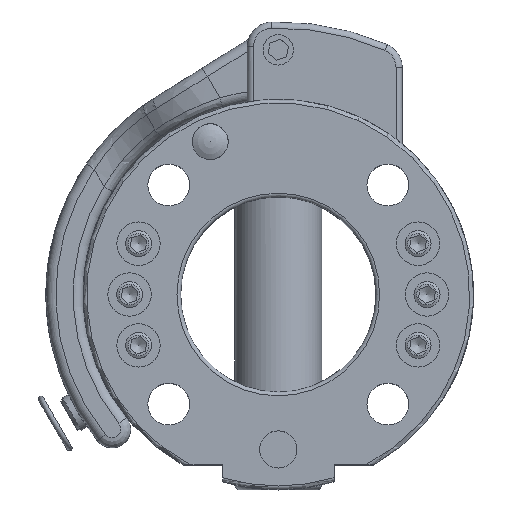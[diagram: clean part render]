
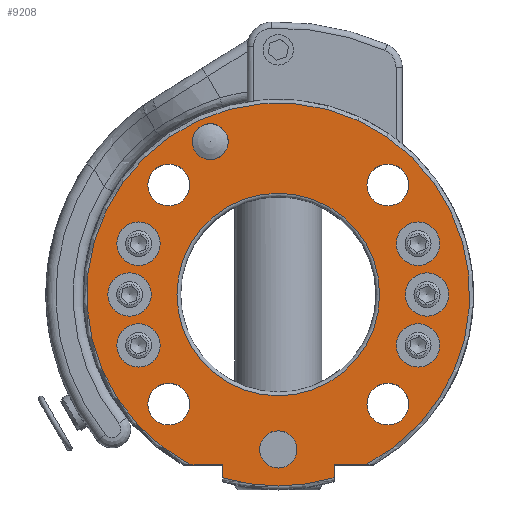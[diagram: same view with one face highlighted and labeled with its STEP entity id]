
A CAD part, top view. The second image highlights one B-rep face of the part: STEP entity #9208.
In plain terms, the highlighted planar face has unit normal (0, 0, 1).
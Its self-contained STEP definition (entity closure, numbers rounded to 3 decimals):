
#352=FACE_BOUND('',#1497,.T.);
#353=FACE_BOUND('',#1498,.T.);
#354=FACE_BOUND('',#1499,.T.);
#355=FACE_BOUND('',#1500,.T.);
#356=FACE_BOUND('',#1501,.T.);
#357=FACE_BOUND('',#1502,.T.);
#358=FACE_BOUND('',#1503,.T.);
#359=FACE_BOUND('',#1504,.T.);
#360=FACE_BOUND('',#1505,.T.);
#361=FACE_BOUND('',#1506,.T.);
#362=FACE_BOUND('',#1507,.T.);
#363=FACE_BOUND('',#1508,.T.);
#364=FACE_BOUND('',#1509,.T.);
#503=PLANE('',#10038);
#905=FACE_OUTER_BOUND('',#1496,.T.);
#1496=EDGE_LOOP('',(#6909,#6910,#6911,#6912,#6913,#6914));
#1497=EDGE_LOOP('',(#6915));
#1498=EDGE_LOOP('',(#6916));
#1499=EDGE_LOOP('',(#6917));
#1500=EDGE_LOOP('',(#6918));
#1501=EDGE_LOOP('',(#6919));
#1502=EDGE_LOOP('',(#6920));
#1503=EDGE_LOOP('',(#6921));
#1504=EDGE_LOOP('',(#6922));
#1505=EDGE_LOOP('',(#6923));
#1506=EDGE_LOOP('',(#6924));
#1507=EDGE_LOOP('',(#6925));
#1508=EDGE_LOOP('',(#6926));
#1509=EDGE_LOOP('',(#6927));
#2250=LINE('',#15363,#2786);
#2272=LINE('',#15625,#2808);
#2273=LINE('',#15663,#2809);
#2277=LINE('',#15681,#2813);
#2786=VECTOR('',#11548,10.);
#2808=VECTOR('',#11692,10.);
#2809=VECTOR('',#11705,10.);
#2813=VECTOR('',#11727,10.);
#3360=CIRCLE('',#9960,16.35);
#3370=CIRCLE('',#9977,3.375);
#3374=CIRCLE('',#9984,3.375);
#3378=CIRCLE('',#9991,3.375);
#3382=CIRCLE('',#9998,3.375);
#3407=CIRCLE('',#10036,30.9);
#3409=CIRCLE('',#10039,30.9);
#3410=CIRCLE('',#10040,3.5);
#3411=CIRCLE('',#10041,3.5);
#3412=CIRCLE('',#10042,3.5);
#3413=CIRCLE('',#10043,3.5);
#3414=CIRCLE('',#10044,3.5);
#3415=CIRCLE('',#10045,3.5);
#3416=CIRCLE('',#10046,3.);
#3417=CIRCLE('',#10047,2.9);
#3922=VERTEX_POINT('',#15331);
#3927=VERTEX_POINT('',#15351);
#3928=VERTEX_POINT('',#15362);
#3940=VERTEX_POINT('',#15429);
#3944=VERTEX_POINT('',#15442);
#3948=VERTEX_POINT('',#15455);
#3952=VERTEX_POINT('',#15468);
#3976=VERTEX_POINT('',#15598);
#3982=VERTEX_POINT('',#15648);
#3984=VERTEX_POINT('',#15662);
#3989=VERTEX_POINT('',#15679);
#3990=VERTEX_POINT('',#15682);
#3991=VERTEX_POINT('',#15684);
#3992=VERTEX_POINT('',#15686);
#3993=VERTEX_POINT('',#15688);
#3994=VERTEX_POINT('',#15690);
#3995=VERTEX_POINT('',#15692);
#3996=VERTEX_POINT('',#15694);
#3997=VERTEX_POINT('',#15696);
#4961=EDGE_CURVE('',#3922,#3922,#3360,.T.);
#4967=EDGE_CURVE('',#3928,#3927,#2250,.T.);
#4984=EDGE_CURVE('',#3940,#3940,#3370,.T.);
#4990=EDGE_CURVE('',#3944,#3944,#3374,.T.);
#4996=EDGE_CURVE('',#3948,#3948,#3378,.T.);
#5002=EDGE_CURVE('',#3952,#3952,#3382,.T.);
#5034=EDGE_CURVE('',#3976,#3928,#2272,.T.);
#5041=EDGE_CURVE('',#3984,#3982,#2273,.T.);
#5048=EDGE_CURVE('',#3976,#3982,#3407,.T.);
#5050=EDGE_CURVE('',#3989,#3927,#3409,.T.);
#5051=EDGE_CURVE('',#3989,#3984,#2277,.T.);
#5052=EDGE_CURVE('',#3990,#3990,#3410,.T.);
#5053=EDGE_CURVE('',#3991,#3991,#3411,.T.);
#5054=EDGE_CURVE('',#3992,#3992,#3412,.T.);
#5055=EDGE_CURVE('',#3993,#3993,#3413,.T.);
#5056=EDGE_CURVE('',#3994,#3994,#3414,.T.);
#5057=EDGE_CURVE('',#3995,#3995,#3415,.T.);
#5058=EDGE_CURVE('',#3996,#3996,#3416,.T.);
#5059=EDGE_CURVE('',#3997,#3997,#3417,.T.);
#6909=ORIENTED_EDGE('',*,*,#5050,.F.);
#6910=ORIENTED_EDGE('',*,*,#5051,.T.);
#6911=ORIENTED_EDGE('',*,*,#5041,.T.);
#6912=ORIENTED_EDGE('',*,*,#5048,.F.);
#6913=ORIENTED_EDGE('',*,*,#5034,.T.);
#6914=ORIENTED_EDGE('',*,*,#4967,.T.);
#6915=ORIENTED_EDGE('',*,*,#5052,.T.);
#6916=ORIENTED_EDGE('',*,*,#5053,.T.);
#6917=ORIENTED_EDGE('',*,*,#5054,.T.);
#6918=ORIENTED_EDGE('',*,*,#5055,.T.);
#6919=ORIENTED_EDGE('',*,*,#5056,.T.);
#6920=ORIENTED_EDGE('',*,*,#5057,.T.);
#6921=ORIENTED_EDGE('',*,*,#5058,.T.);
#6922=ORIENTED_EDGE('',*,*,#5059,.T.);
#6923=ORIENTED_EDGE('',*,*,#4961,.F.);
#6924=ORIENTED_EDGE('',*,*,#4984,.T.);
#6925=ORIENTED_EDGE('',*,*,#4990,.T.);
#6926=ORIENTED_EDGE('',*,*,#4996,.T.);
#6927=ORIENTED_EDGE('',*,*,#5002,.T.);
#9208=ADVANCED_FACE('',(#905,#352,#353,#354,#355,#356,#357,#358,#359,#360,
#361,#362,#363,#364),#503,.T.);
#9960=AXIS2_PLACEMENT_3D('',#15332,#11539,#11540);
#9977=AXIS2_PLACEMENT_3D('',#15431,#11583,#11584);
#9984=AXIS2_PLACEMENT_3D('',#15444,#11599,#11600);
#9991=AXIS2_PLACEMENT_3D('',#15457,#11615,#11616);
#9998=AXIS2_PLACEMENT_3D('',#15470,#11631,#11632);
#10036=AXIS2_PLACEMENT_3D('',#15676,#11719,#11720);
#10038=AXIS2_PLACEMENT_3D('',#15678,#11723,#11724);
#10039=AXIS2_PLACEMENT_3D('',#15680,#11725,#11726);
#10040=AXIS2_PLACEMENT_3D('',#15683,#11728,#11729);
#10041=AXIS2_PLACEMENT_3D('',#15685,#11730,#11731);
#10042=AXIS2_PLACEMENT_3D('',#15687,#11732,#11733);
#10043=AXIS2_PLACEMENT_3D('',#15689,#11734,#11735);
#10044=AXIS2_PLACEMENT_3D('',#15691,#11736,#11737);
#10045=AXIS2_PLACEMENT_3D('',#15693,#11738,#11739);
#10046=AXIS2_PLACEMENT_3D('',#15695,#11740,#11741);
#10047=AXIS2_PLACEMENT_3D('',#15697,#11742,#11743);
#11539=DIRECTION('center_axis',(0.,0.,
1.));
#11540=DIRECTION('ref_axis',(-1.,0.,0.));
#11548=DIRECTION('',(0.,-1.,0.));
#11583=DIRECTION('center_axis',(0.,0.,
-1.));
#11584=DIRECTION('ref_axis',(-1.,0.,0.));
#11599=DIRECTION('center_axis',(0.,0.,
-1.));
#11600=DIRECTION('ref_axis',(-1.,0.,0.));
#11615=DIRECTION('center_axis',(0.,0.,
-1.));
#11616=DIRECTION('ref_axis',(-1.,0.,0.));
#11631=DIRECTION('center_axis',(0.,0.,
-1.));
#11632=DIRECTION('ref_axis',(-1.,0.,0.));
#11692=DIRECTION('',(1.,0.,0.));
#11705=DIRECTION('',(1.,0.,0.));
#11719=DIRECTION('center_axis',(0.,0.,
-1.));
#11720=DIRECTION('ref_axis',(0.,1.,0.));
#11723=DIRECTION('center_axis',(0.,0.,
1.));
#11724=DIRECTION('ref_axis',(1.,0.,0.));
#11725=DIRECTION('center_axis',(0.,0.,
-1.));
#11726=DIRECTION('ref_axis',(0.,-1.,0.));
#11727=DIRECTION('',(0.,1.,0.));
#11728=DIRECTION('center_axis',(0.,0.,
-1.));
#11729=DIRECTION('ref_axis',(1.,0.,0.));
#11730=DIRECTION('center_axis',(0.,0.,
-1.));
#11731=DIRECTION('ref_axis',(1.,0.,0.));
#11732=DIRECTION('center_axis',(0.,0.,
-1.));
#11733=DIRECTION('ref_axis',(1.,0.,0.));
#11734=DIRECTION('center_axis',(0.,0.,
-1.));
#11735=DIRECTION('ref_axis',(1.,0.,0.));
#11736=DIRECTION('center_axis',(0.,0.,
-1.));
#11737=DIRECTION('ref_axis',(1.,0.,0.));
#11738=DIRECTION('center_axis',(0.,0.,
-1.));
#11739=DIRECTION('ref_axis',(1.,0.,0.));
#11740=DIRECTION('center_axis',(0.,0.,
-1.));
#11741=DIRECTION('ref_axis',(1.,0.,0.));
#11742=DIRECTION('center_axis',(0.,0.,
-1.));
#11743=DIRECTION('ref_axis',(1.,0.,0.));
#15331=CARTESIAN_POINT('',(22.012,0.439,13.25));
#15332=CARTESIAN_POINT('Origin',(5.662,0.439,13.25));
#15351=CARTESIAN_POINT('',(-3.338,-29.121,13.25));
#15362=CARTESIAN_POINT('',(-3.338,-27.061,13.25));
#15363=CARTESIAN_POINT('',(-3.338,-13.311,13.25));
#15429=CARTESIAN_POINT('',(-8.641,-17.239,13.25));
#15431=CARTESIAN_POINT('Origin',(-12.016,-17.239,13.25));
#15442=CARTESIAN_POINT('',(26.715,18.117,13.25));
#15444=CARTESIAN_POINT('Origin',(23.34,18.117,13.25));
#15455=CARTESIAN_POINT('',(-8.641,18.117,13.25));
#15457=CARTESIAN_POINT('Origin',(-12.016,18.117,13.25));
#15468=CARTESIAN_POINT('',(26.715,-17.239,13.25));
#15470=CARTESIAN_POINT('Origin',(23.34,-17.239,13.25));
#15598=CARTESIAN_POINT('',(-8.429,-27.061,13.25));
#15625=CARTESIAN_POINT('',(-2.019,-27.061,13.25));
#15648=CARTESIAN_POINT('',(19.753,-27.061,13.25));
#15662=CARTESIAN_POINT('',(14.662,-27.061,13.25));
#15663=CARTESIAN_POINT('',(10.162,-27.061,13.25));
#15676=CARTESIAN_POINT('Origin',(5.662,0.439,13.25));
#15678=CARTESIAN_POINT('Origin',(5.662,0.439,13.25));
#15679=CARTESIAN_POINT('',(14.662,-29.121,13.25));
#15680=CARTESIAN_POINT('Origin',(5.662,0.439,13.25));
#15681=CARTESIAN_POINT('',(14.662,-15.311,13.25));
#15682=CARTESIAN_POINT('',(-21.838,0.439,13.25));
#15683=CARTESIAN_POINT('Origin',(-18.338,0.439,13.25));
#15684=CARTESIAN_POINT('',(24.715,-7.769,13.25));
#15685=CARTESIAN_POINT('Origin',(28.215,-7.769,13.25));
#15686=CARTESIAN_POINT('',(24.715,8.648,13.25));
#15687=CARTESIAN_POINT('Origin',(28.215,8.648,13.25));
#15688=CARTESIAN_POINT('',(26.162,0.439,13.25));
#15689=CARTESIAN_POINT('Origin',(29.662,0.439,13.25));
#15690=CARTESIAN_POINT('',(-20.391,-7.769,13.25));
#15691=CARTESIAN_POINT('Origin',(-16.891,-7.769,13.25));
#15692=CARTESIAN_POINT('',(-20.391,8.648,13.25));
#15693=CARTESIAN_POINT('Origin',(-16.891,8.648,13.25));
#15694=CARTESIAN_POINT('',(2.662,-24.561,13.25));
#15695=CARTESIAN_POINT('Origin',(5.662,-24.561,13.25));
#15696=CARTESIAN_POINT('',(-8.22,25.105,13.25));
#15697=CARTESIAN_POINT('Origin',(-5.32,25.105,13.25));
